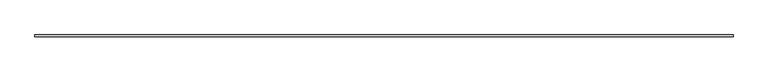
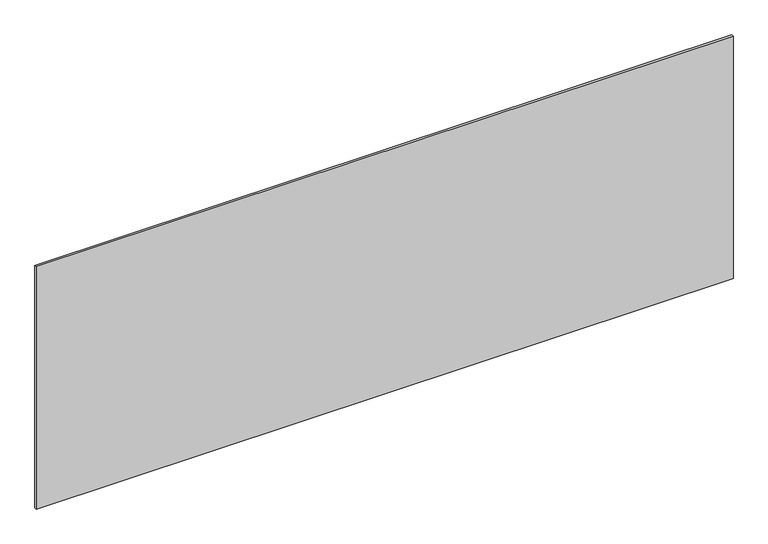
"""IFC4 building model written with IfcOpenShell, lengths in millimetres: plate geometry, システム パネル : 標準."""

from ifc_helpers import new_model, si_unit, origin, origin_with_axes, place, context, project, spatial, polyline, outline, extrude, source, transform, mapped, element, save


def plate_d6c8d9a2(model_context):
    return source(origin(), model_context, "Body", "SweptSolid", [
        extrude(outline(polyline([(1697.5, -5.0), (-1697.5, -5.0), (-1697.5, 5.0), (1697.5, 5.0), (1697.5, -5.0)])), origin_with_axes(), (0.0, 0.0, 1.0), 1249.3695227),
    ])


if __name__ == "__main__":
    model = new_model("IFC4")
    model_context = context("Model", 3, world=origin())
    ifc_project = project(units=[si_unit("LENGTHUNIT", "METRE", prefix="MILLI")], contexts=[model_context])
    site = spatial("IfcSite", under=ifc_project)
    building = spatial("IfcBuilding", under=site)
    placement = place(None, origin())
    plate_shape = plate_d6c8d9a2(model_context)
    element("IfcPlate", 1, ObjectType="システム パネル : 標準", at=placement, inside=building, context=model_context, shape_type="MappedRepresentation", body=[
        mapped(plate_shape, transform((0.0, 0.0, 0.0), x_axis=(1.0, 0.0, 0.0), y_axis=(0.0, 1.0, 0.0), z_axis=(0.0, 0.0, 1.0))),
    ])
    save(model, "model.ifc")
